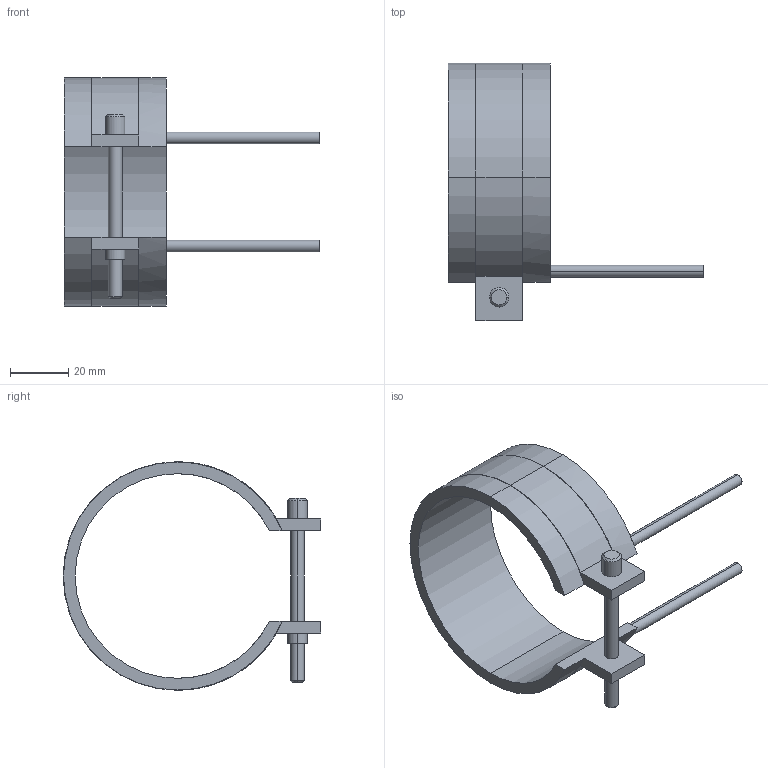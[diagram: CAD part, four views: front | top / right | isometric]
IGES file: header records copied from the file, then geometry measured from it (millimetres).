
Start section: START RECORD GO HERE.
Global section: file name: 14070035.igs; native system: DASSAULT SYSTEMES CATIA V5 R20 - www.3ds.com; preprocessor: CATIA Version 5 Release 20 ; author: Utente; organization: NB04-ASUS; date: 20210401.114740; units: millimetre
Bounding box: 87.5 x 88.1 x 78.2 mm (x, y, z)
Surface area: 19256.5 mm2 (no closed solid volume)
Topology: 0 solids, 0 shells, 45 faces, 232 edges, 232 vertices
Faces by surface type: revolution 28, plane 17
